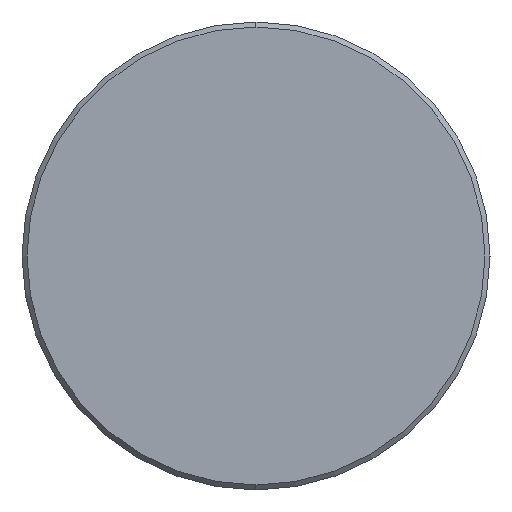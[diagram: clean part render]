
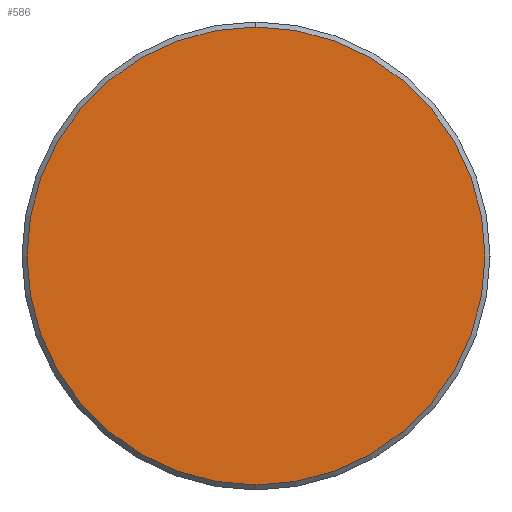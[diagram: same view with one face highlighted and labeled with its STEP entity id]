
A CAD part, left-side view. The second image highlights one B-rep face of the part: STEP entity #586.
In plain terms, the highlighted planar face has unit normal (-1, 0, 0).
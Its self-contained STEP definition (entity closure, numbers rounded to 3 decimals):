
#42 = CARTESIAN_POINT ( 'NONE',  ( 0., 0., 0. ) ) ;
#67 = EDGE_CURVE ( 'NONE', #568, #113, #420, .T. ) ;
#113 = VERTEX_POINT ( 'NONE', #136 ) ;
#132 = PLANE ( 'NONE',  #819 ) ;
#136 = CARTESIAN_POINT ( 'NONE',  ( 0., 0., -13.7 ) ) ;
#188 = ORIENTED_EDGE ( 'NONE', *, *, #334, .T. ) ;
#287 = EDGE_LOOP ( 'NONE', ( #188, #716 ) ) ;
#309 = AXIS2_PLACEMENT_3D ( 'NONE', #42, #539, #423 ) ;
#334 = EDGE_CURVE ( 'NONE', #113, #568, #407, .T. ) ;
#374 = AXIS2_PLACEMENT_3D ( 'NONE', #585, #767, #581 ) ;
#407 = CIRCLE ( 'NONE', #309, 13.7 ) ;
#420 = CIRCLE ( 'NONE', #374, 13.7 ) ;
#423 = DIRECTION ( 'NONE',  ( 0., 0., 1. ) ) ;
#539 = DIRECTION ( 'NONE',  ( -1., 0., 0. ) ) ;
#568 = VERTEX_POINT ( 'NONE', #643 ) ;
#581 = DIRECTION ( 'NONE',  ( 0., 0., 1. ) ) ;
#583 = DIRECTION ( 'NONE',  ( 0., 0., -1. ) ) ;
#585 = CARTESIAN_POINT ( 'NONE',  ( 0., 0., 0. ) ) ;
#586 = ADVANCED_FACE ( 'NONE', ( #789 ), #132, .F. ) ;
#594 = CARTESIAN_POINT ( 'NONE',  ( 0., 0., 0. ) ) ;
#643 = CARTESIAN_POINT ( 'NONE',  ( 0., 0., 13.7 ) ) ;
#646 = DIRECTION ( 'NONE',  ( 1., 0., 0. ) ) ;
#716 = ORIENTED_EDGE ( 'NONE', *, *, #67, .T. ) ;
#767 = DIRECTION ( 'NONE',  ( -1., 0., 0. ) ) ;
#789 = FACE_OUTER_BOUND ( 'NONE', #287, .T. ) ;
#819 = AXIS2_PLACEMENT_3D ( 'NONE', #594, #646, #583 ) ;
